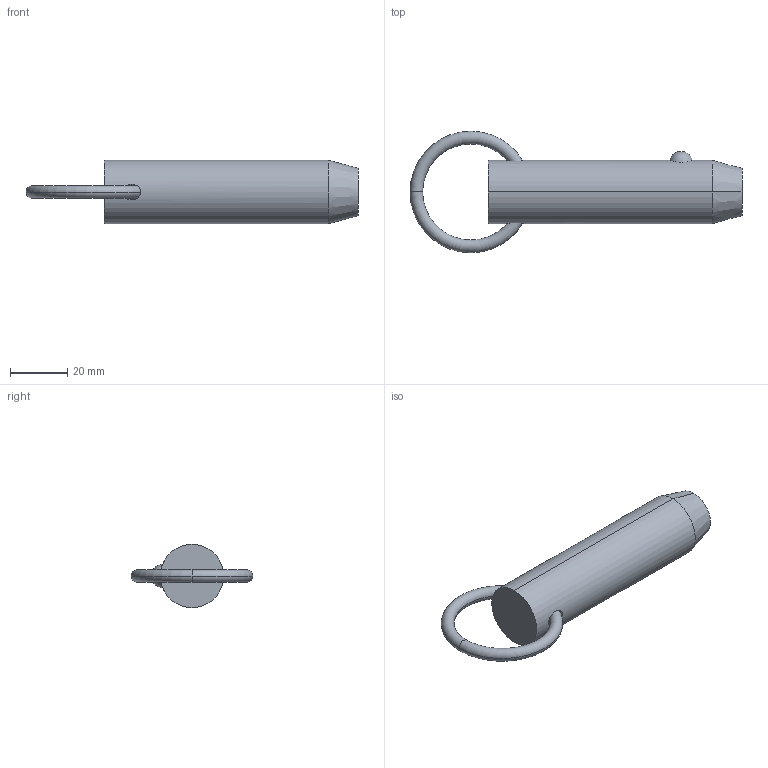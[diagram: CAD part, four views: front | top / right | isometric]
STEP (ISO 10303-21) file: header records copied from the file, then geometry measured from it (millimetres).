
FILE_DESCRIPTION (( 'STEP AP203' ), '1' );
FILE_NAME ('33010.W8820.step', '2024-11-01T10:45:27', ( '' ), ( '' ), 'SwSTEP 2.0', 'SolidWorks 2019', '' );
FILE_SCHEMA (( 'CONFIG_CONTROL_DESIGN' ));
Length unit declared in the file: millimetre
Products named in the file (3): 33010.W8820; Part2_33010.W8820; Part1_33010.W8820
Assembly tree (2 placements, depth 2):
  33010.W8820
    Part1_33010.W8820
    Part2_33010.W8820
Bounding box: 116.26 x 42.55 x 22.23 mm (x, y, z)
Volume: 34972.1 mm3; surface area: 8803.6 mm2
Topology: 2 solids, 2 shells, 16 faces, 31 edges, 18 vertices
Faces by surface type: torus 8, sphere 2, cone 2, cylinder 2, plane 2
Entity records: 903 total; most frequent: CARTESIAN_POINT 260, DIRECTION 88, ORIENTED_EDGE 62, AXIS2_PLACEMENT_3D 42, EDGE_CURVE 31, PERSON_AND_ORGANIZATION 26, CIRCLE 21, LOCAL_TIME 19
